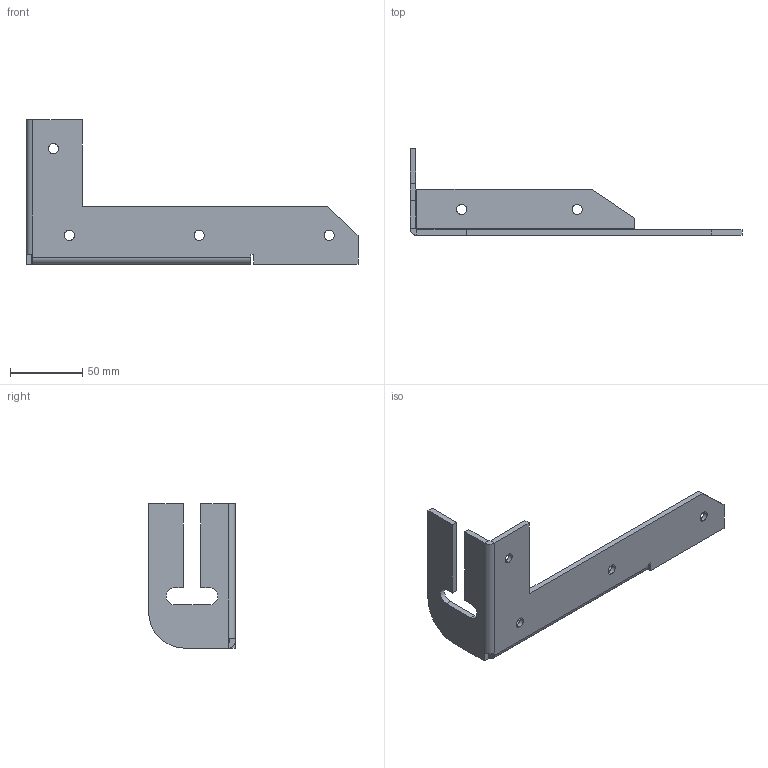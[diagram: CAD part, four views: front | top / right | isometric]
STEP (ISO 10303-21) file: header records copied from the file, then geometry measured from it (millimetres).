
FILE_DESCRIPTION (( 'STEP AP203' ), '1' );
FILE_NAME ('6200.230.STEP', '2020-09-30T11:06:21', ( '' ), ( '' ), 'SwSTEP 2.0', 'SolidWorks 2015', '' );
FILE_SCHEMA (( 'CONFIG_CONTROL_DESIGN' ));
Length unit declared in the file: millimetre
Products named in the file (1): 6200.230
Bounding box: 230 x 60 x 100 mm (x, y, z)
Volume: 76181.1 mm3; surface area: 42563.3 mm2
Topology: 1 solids, 1 shells, 62 faces, 164 edges, 104 vertices
Faces by surface type: plane 34, cylinder 20, cone 8
Entity records: 2009 total; most frequent: DIRECTION 338, CARTESIAN_POINT 331, ORIENTED_EDGE 328, EDGE_CURVE 164, LINE 116, VECTOR 116, AXIS2_PLACEMENT_3D 111, VERTEX_POINT 104
